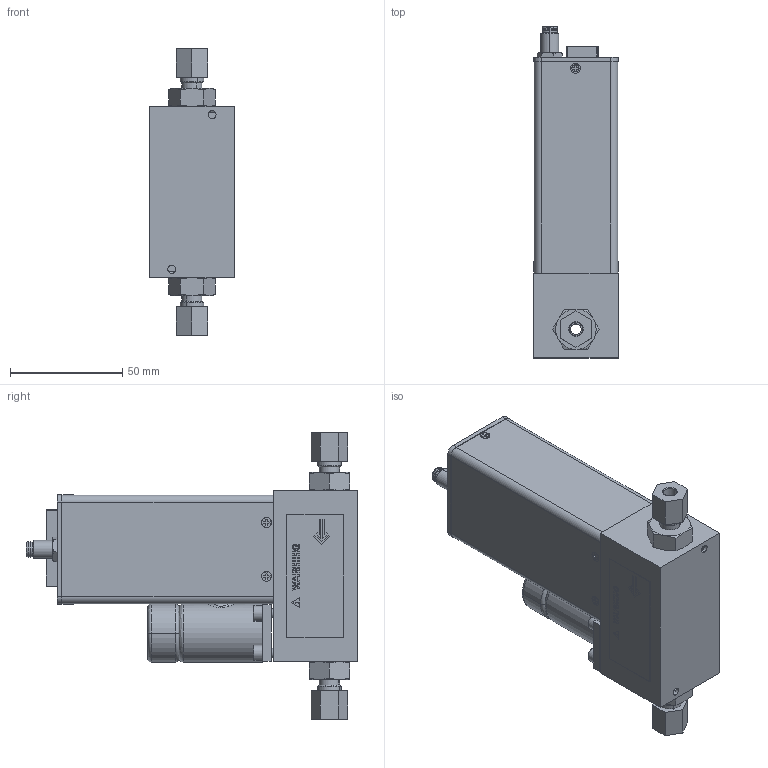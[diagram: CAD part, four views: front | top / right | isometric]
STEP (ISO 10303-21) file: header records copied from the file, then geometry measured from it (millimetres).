
FILE_DESCRIPTION (( 'STEP AP203' ), '1' );
FILE_NAME ('SLA5850-8-1H-1-A-REVB.STEP', '2020-09-04T17:09:29', ( '' ), ( '' ), 'SwSTEP 2.0', 'SolidWorks 2019', '' );
FILE_SCHEMA (( 'CONFIG_CONTROL_DESIGN' ));
Length unit declared in the file: inch
Products named in the file (2): SLA5850-8-1H-1-A-REVB
Bounding box: 38.07 x 147.97 x 127.75 mm (x, y, z)
Volume: 68851.9 mm3; surface area: 100074.8 mm2
Topology: 54 solids, 54 shells, 2310 faces, 6081 edges, 3943 vertices
Faces by surface type: plane 1425, cylinder 559, bspline 179, cone 147
Entity records: 76133 total; most frequent: CARTESIAN_POINT 19084, ORIENTED_EDGE 12126, DIRECTION 11386, EDGE_CURVE 6063, LINE 4278, VECTOR 4278, VERTEX_POINT 3943, AXIS2_PLACEMENT_3D 3554
